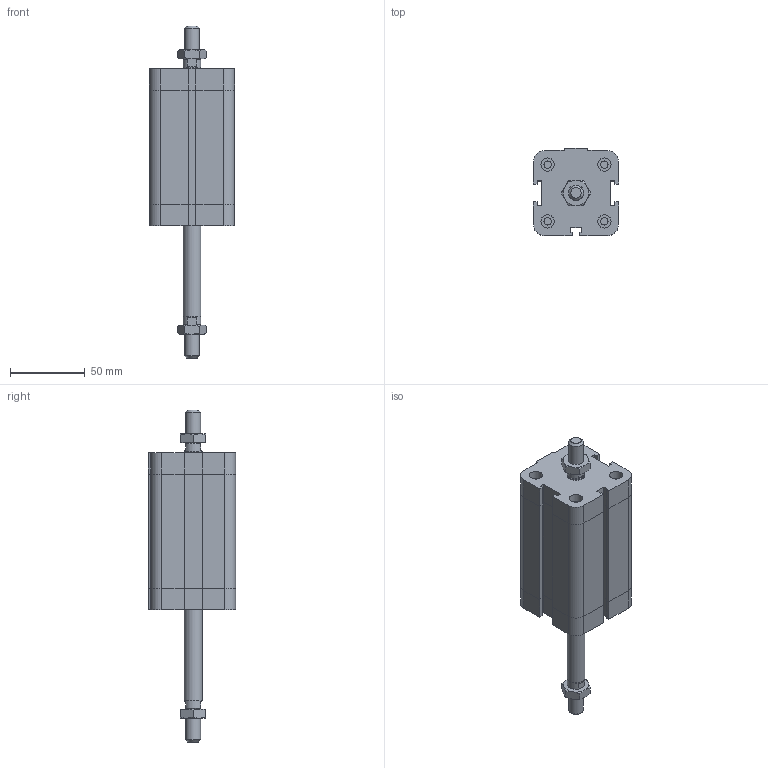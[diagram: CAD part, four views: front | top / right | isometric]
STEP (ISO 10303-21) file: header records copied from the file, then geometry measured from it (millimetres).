
FILE_DESCRIPTION((''),'2;1');
FILE_NAME('I:\Area Tecnica\Disegni\VARIE-3D\Componenti\EUROPE\15##_###_####_04_#\1561_40_0060_04_1.iam.stp','2009-04-20T14:45:50',(''),(''),'Autodesk Inventor 2009','Autodesk Inventor 2009','');
FILE_SCHEMA(('AUTOMOTIVE_DESIGN { 1 0 10303 214 1 1 1 1 }'));
Length unit declared in the file: millimetre
Products named in the file (4): 1561_40_0060_04_1; 1561_40_0060_03_1_C; 1561_40_0060_04_1_S; DBFM10
Assembly tree (4 placements, depth 2):
  1561_40_0060_04_1
    1561_40_0060_03_1_C
    1561_40_0060_04_1_S
    DBFM10  x2
Bounding box: 57 x 58.5 x 222.5 mm (x, y, z)
Volume: 328100.7 mm3; surface area: 51472.6 mm2
Topology: 4 solids, 4 shells, 222 faces, 483 edges, 289 vertices
Faces by surface type: plane 129, cone 35, bspline 33, cylinder 25
Full cylindrical faces by diameter (mm): 4.917 x4, 8.8 x1, 9 x4, 10 x1, 11.7 x2, 12 x1
Entity records: 5450 total; most frequent: CARTESIAN_POINT 1222, DIRECTION 802, ORIENTED_EDGE 772, EDGE_CURVE 386, AXIS2_PLACEMENT_3D 272, EDGE_LOOP 258, VECTOR 258, LINE 258
